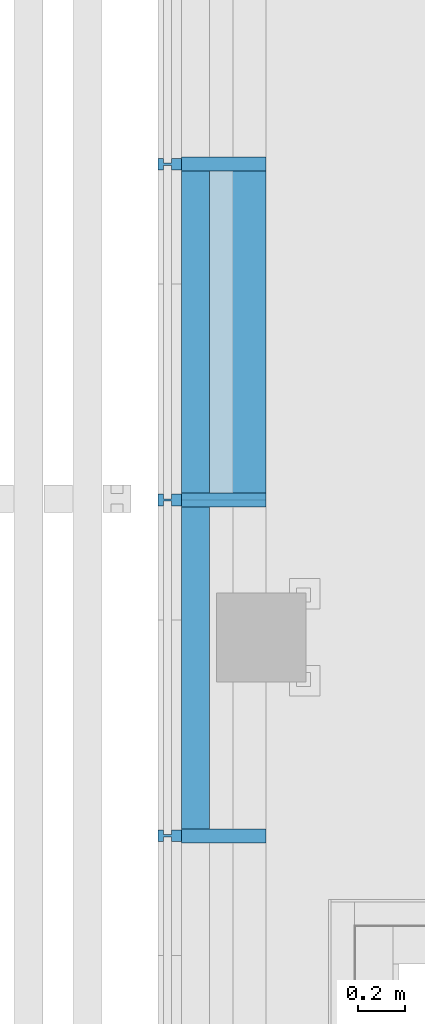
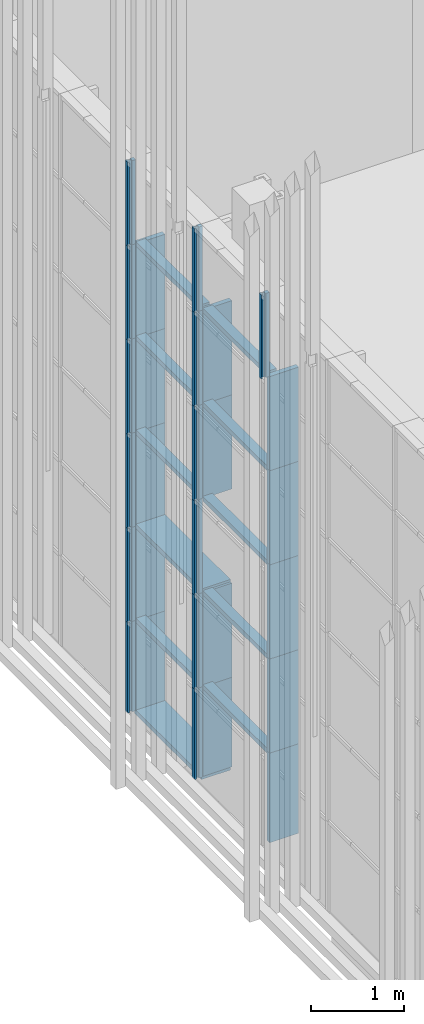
# One storey, part 6 of 260: 38 members, 2 elements without a shape of their own.
"""IFC2X3 building model written with IfcOpenShell, lengths in millimetres."""

from ifc_helpers import new_model, entity, si_unit, converted_unit, derived_unit, money_unit, direction, frame, origin_with_axes, place, context, subcontext, project, spatial, faceted_brep, source, transform, mapped, material, type_object, element, aggregate, save


model = new_model("IFC2X3")

# Units and contexts
model_context = context("Model", 3, precision=0.01, world=origin_with_axes(), true_north=direction((0.0, 1.0)))
body_context = subcontext(model_context, "Body", "Model", "MODEL_VIEW")
ifc_project = project(units=[si_unit("LENGTHUNIT", "METRE", prefix="MILLI"), si_unit("AREAUNIT", "SQUARE_METRE"), si_unit("VOLUMEUNIT", "CUBIC_METRE"), converted_unit("PLANEANGLEUNIT", "DEGREE", entity("IfcPlaneAngleMeasure", 0.0174532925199), si_unit("PLANEANGLEUNIT", "RADIAN"), dimensions=[0, 0, 0, 0, 0, 0, 0]), money_unit("EUR"), converted_unit("TIMEUNIT", "Year", entity("IfcTimeMeasure", 31556926.0), si_unit("TIMEUNIT", "SECOND"), dimensions=[0, 0, 1, 0, 0, 0, 0]), si_unit("MASSUNIT", "GRAM", prefix="KILO"), si_unit("THERMODYNAMICTEMPERATUREUNIT", "DEGREE_CELSIUS"), si_unit("LUMINOUSINTENSITYUNIT", "LUMEN"), si_unit("ENERGYUNIT", "JOULE", prefix="MEGA"), derived_unit("THERMALCONDUCTANCEUNIT", [(si_unit("POWERUNIT", "WATT"), 1), (si_unit("LENGTHUNIT", "METRE"), -1), (si_unit("THERMODYNAMICTEMPERATUREUNIT", "KELVIN"), -1)]), derived_unit("SPECIFICHEATCAPACITYUNIT", [(si_unit("ENERGYUNIT", "JOULE"), 1), (si_unit("MASSUNIT", "GRAM", prefix="KILO"), -1), (si_unit("THERMODYNAMICTEMPERATUREUNIT", "KELVIN"), -1)]), derived_unit("MASSDENSITYUNIT", [(si_unit("MASSUNIT", "GRAM", prefix="KILO"), 1), (si_unit("VOLUMEUNIT", "CUBIC_METRE"), -1)])], contexts=[model_context])

# Site, building, storey
site_placement = place(None, origin_with_axes())
site = spatial("IfcSite", under=ifc_project, at=site_placement, Name="Kolde pst 67a", CompositionType="ELEMENT")
building_placement = place(site_placement, origin_with_axes())
building = spatial("IfcBuilding", under=site, at=building_placement, Name="Riigigümnaasium", CompositionType="ELEMENT")
storey_placement = place(building_placement, origin_with_axes())
storey = spatial("IfcBuildingStorey", under=building, at=storey_placement, Name="1. korrus", CompositionType="ELEMENT", Elevation=0.0)

# Curtain wall, members
curtain_wall_type = type_object("IfcCurtainWallType", Name="Curtain Wall Type", PredefinedType="NOTDEFINED")
curtain_wall_1_placement = place(storey_placement, frame((47829.9854655, 8727.77020058, -0.000749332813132), z_axis=(0.0, 0.0, 1.0), x_axis=(1.0, 0.0, 0.0)))
curtain_wall_1 = element("IfcCurtainWall", 1, at=curtain_wall_1_placement, inside=storey, type_object=curtain_wall_type, Name="KLAASFASSAAD")
ifc_material_1 = material(Name="_METALL - alumiinium")
member_type_1 = type_object("IfcMemberType", Name="Mullion Frame 50 x 100", PredefinedType="MEMBER")
shared_shape_1 = source(origin_with_axes(), body_context, "Body", "Brep", [
    faceted_brep([(5.0, -16.5, 1230.00046362), (5.0, 16.5, 1230.00046362), (25.0, 16.5, 1230.00046362), (25.0, 40.0, 1230.00046362), (-25.0, 40.0, 1230.00046362), (-25.0, 16.5, 1230.00046362), (-5.0, 16.5, 1230.00046362), (-5.0, -16.5, 1230.00046362), (-25.0, -16.5, 1230.00046362), (-25.0, -60.0, 1230.00046362), (25.0, -60.0, 1230.00046362), (25.0, -16.5, 1230.00046362), (5.0, -16.5, 50.0), (5.0, 16.5, 50.0), (25.0, 16.5, 50.0), (25.0, 40.0, 50.0), (-25.0, 40.0, 50.0), (-25.0, 16.5, 50.0), (-5.0, 16.5, 50.0), (-5.0, -16.5, 50.0), (-25.0, -16.5, 50.0), (-25.0, -60.0, 50.0), (25.0, -60.0, 50.0), (25.0, -16.5, 50.0)], [[[0, 1, 2, 3, 4, 5, 6, 7, 8, 9, 10, 11]], [[0, 12, 13, 1]], [[1, 13, 14, 2]], [[14, 15, 3, 2]], [[4, 3, 15, 16]], [[17, 5, 4, 16]], [[5, 17, 18, 6]], [[7, 6, 18, 19]], [[8, 7, 19, 20]], [[8, 20, 21, 9]], [[10, 9, 21, 22]], [[11, 10, 22, 23]], [[11, 23, 12, 0]], [[13, 12, 23, 22, 21, 20, 19, 18, 17, 16, 15, 14]]]),
])
member_1_placement = place(curtain_wall_1_placement, frame((-23999.9308899, 22067.2742227, 2.49889189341e-05), z_axis=(0.0, -1.45020531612e-09, 1.0), x_axis=(-7.64768489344e-06, -0.999999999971, -1.45020531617e-09)))
member_1 = element("IfcMember", 2, at=member_1_placement, type_object=member_type_1, material=ifc_material_1, Name="RF RAAM VERT-648", ObjectType="MEMBER", context=body_context, shape_type="MappedRepresentation", body=[
    mapped(shared_shape_1, transform((0.0, 0.0, 0.0), x_axis=(-1.0, 0.0, -1.45020531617e-09), y_axis=(0.0, -1.0, 0.0), z_axis=(-1.45020531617e-09, 0.0, 1.0))),
])
member_2_placement = place(curtain_wall_1_placement, frame((-23999.9418261, 20637.2742038, 2.49889189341e-05), z_axis=(0.0, 1.39790449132e-08, 1.0), x_axis=(-7.64768489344e-06, -0.999999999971, 1.39790449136e-08)))
member_2 = element("IfcMember", 3, at=member_2_placement, type_object=member_type_1, material=ifc_material_1, Name="RF RAAM VERT-653", ObjectType="MEMBER", context=body_context, shape_type="MappedRepresentation", body=[
    mapped(shared_shape_1, transform((0.0, 0.0, 0.0), x_axis=(-1.0, 0.0, 1.39790449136e-08), y_axis=(0.0, -1.0, 0.0), z_axis=(1.39790449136e-08, 0.0, 1.0))),
])
shared_shape_2 = source(origin_with_axes(), body_context, "Body", "Brep", [
    faceted_brep([(5.0, -16.5, 1230.0), (5.0, 16.5, 1230.0), (25.0, 16.5, 1230.0), (25.0, 40.0, 1230.0), (-25.0, 40.0, 1230.0), (-25.0, 16.5, 1230.0), (-5.0, 16.5, 1230.0), (-5.0, -16.5, 1230.0), (-25.0, -16.5, 1230.0), (-25.0, -60.0, 1230.0), (25.0, -60.0, 1230.0), (25.0, -16.5, 1230.0), (5.0, -16.5, 0.0), (5.0, 16.5, 0.0), (25.0, 16.5, 0.0), (25.0, 40.0, 0.0), (-25.0, 40.0, 0.0), (-25.0, 16.5, 0.0), (-5.0, 16.5, 0.0), (-5.0, -16.5, 0.0), (-25.0, -16.5, 0.0), (-25.0, -60.0, 0.0), (25.0, -60.0, 0.0), (25.0, -16.5, 0.0)], [[[0, 1, 2, 3, 4, 5, 6, 7, 8, 9, 10, 11]], [[0, 12, 13, 1]], [[1, 13, 14, 2]], [[14, 15, 3, 2]], [[3, 15, 16, 4]], [[17, 5, 4, 16]], [[5, 17, 18, 6]], [[7, 6, 18, 19]], [[8, 7, 19, 20]], [[8, 20, 21, 9]], [[9, 21, 22, 10]], [[11, 10, 22, 23]], [[11, 23, 12, 0]], [[13, 12, 23, 22, 21, 20, 19, 18, 17, 16, 15, 14]]]),
])
member_3_placement = place(curtain_wall_1_placement, frame((-23999.9308899, 22067.2742209, 4920.00074933), z_axis=(0.0, 1.45020617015e-09, 1.0), x_axis=(-7.64768489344e-06, -0.999999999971, 1.45020617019e-09)))
member_3 = element("IfcMember", 4, at=member_3_placement, type_object=member_type_1, material=ifc_material_1, Name="RF RAAM VERT-644", ObjectType="MEMBER", context=body_context, shape_type="MappedRepresentation", body=[
    mapped(shared_shape_2, transform((0.0, 0.0, 0.0), x_axis=(-1.0, 0.0, 1.45020617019e-09), y_axis=(0.0, -1.0, 0.0), z_axis=(1.45020617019e-09, 0.0, 1.0))),
])
member_4_placement = place(curtain_wall_1_placement, frame((-23999.9308899, 22067.2742209, 3690.00074933), z_axis=(0.0, 0.0, 1.0), x_axis=(-7.64768489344e-06, -0.999999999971, 0.0)))
member_4 = element("IfcMember", 5, at=member_4_placement, type_object=member_type_1, material=ifc_material_1, Name="RF RAAM VERT-645", ObjectType="MEMBER", context=body_context, shape_type="MappedRepresentation", body=[
    mapped(shared_shape_2, transform((0.0, 0.0, 0.0), x_axis=(-1.0, 0.0, 0.0), y_axis=(0.0, -1.0, 0.0), z_axis=(0.0, 0.0, 1.0))),
])
member_5_placement = place(curtain_wall_1_placement, frame((-23999.9308899, 22067.2742209, 2460.00074933), z_axis=(0.0, 0.0, 1.0), x_axis=(-7.64768489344e-06, -0.999999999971, 0.0)))
member_5 = element("IfcMember", 6, at=member_5_placement, type_object=member_type_1, material=ifc_material_1, Name="RF RAAM VERT-646", ObjectType="MEMBER", context=body_context, shape_type="MappedRepresentation", body=[
    mapped(shared_shape_2, transform((0.0, 0.0, 0.0), x_axis=(-1.0, 0.0, 0.0), y_axis=(0.0, -1.0, 0.0), z_axis=(0.0, 0.0, 1.0))),
])
member_6_placement = place(curtain_wall_1_placement, frame((-23999.9308899, 22067.2742209, 1230.00074933), z_axis=(0.0, 0.0, 1.0), x_axis=(-7.64768489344e-06, -0.999999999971, 0.0)))
member_6 = element("IfcMember", 7, at=member_6_placement, type_object=member_type_1, material=ifc_material_1, Name="RF RAAM VERT-647", ObjectType="MEMBER", context=body_context, shape_type="MappedRepresentation", body=[
    mapped(shared_shape_2, transform((0.0, 0.0, 0.0), x_axis=(-1.0, 0.0, 0.0), y_axis=(0.0, -1.0, 0.0), z_axis=(0.0, 0.0, 1.0))),
])
member_7_placement = place(curtain_wall_1_placement, frame((-23999.9418261, 20637.274221, 4920.00074933), z_axis=(0.0, -1.39790531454e-08, 1.0), x_axis=(-7.64768489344e-06, -0.999999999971, -1.39790531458e-08)))
member_7 = element("IfcMember", 8, at=member_7_placement, type_object=member_type_1, material=ifc_material_1, Name="RF RAAM VERT-649", ObjectType="MEMBER", context=body_context, shape_type="MappedRepresentation", body=[
    mapped(shared_shape_2, transform((0.0, 0.0, 0.0), x_axis=(-1.0, 0.0, -1.39790531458e-08), y_axis=(0.0, -1.0, 0.0), z_axis=(-1.39790531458e-08, 0.0, 1.0))),
])
member_8_placement = place(curtain_wall_1_placement, frame((-23999.9418261, 20637.274221, 3690.00074933), z_axis=(0.0, 0.0, 1.0), x_axis=(-7.64768489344e-06, -0.999999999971, 0.0)))
member_8 = element("IfcMember", 9, at=member_8_placement, type_object=member_type_1, material=ifc_material_1, Name="RF RAAM VERT-650", ObjectType="MEMBER", context=body_context, shape_type="MappedRepresentation", body=[
    mapped(shared_shape_2, transform((0.0, 0.0, 0.0), x_axis=(-1.0, 0.0, 0.0), y_axis=(0.0, -1.0, 0.0), z_axis=(0.0, 0.0, 1.0))),
])
member_9_placement = place(curtain_wall_1_placement, frame((-23999.9418261, 20637.274221, 2460.00074933), z_axis=(0.0, 0.0, 1.0), x_axis=(-7.64768489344e-06, -0.999999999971, 0.0)))
member_9 = element("IfcMember", 10, at=member_9_placement, type_object=member_type_1, material=ifc_material_1, Name="RF RAAM VERT-651", ObjectType="MEMBER", context=body_context, shape_type="MappedRepresentation", body=[
    mapped(shared_shape_2, transform((0.0, 0.0, 0.0), x_axis=(-1.0, 0.0, 0.0), y_axis=(0.0, -1.0, 0.0), z_axis=(0.0, 0.0, 1.0))),
])
member_10_placement = place(curtain_wall_1_placement, frame((-23999.9418261, 20637.274221, 1230.00074933), z_axis=(0.0, 0.0, 1.0), x_axis=(-7.64768489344e-06, -0.999999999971, 0.0)))
member_10 = element("IfcMember", 11, at=member_10_placement, type_object=member_type_1, material=ifc_material_1, Name="RF RAAM VERT-652", ObjectType="MEMBER", context=body_context, shape_type="MappedRepresentation", body=[
    mapped(shared_shape_2, transform((0.0, 0.0, 0.0), x_axis=(-1.0, 0.0, 0.0), y_axis=(0.0, -1.0, 0.0), z_axis=(0.0, 0.0, 1.0))),
])
shared_shape_3 = source(origin_with_axes(), body_context, "Body", "Brep", [
    faceted_brep([(5.0, -16.5, 1099.99900713), (5.0, 16.5, 1099.99900713), (25.0, 16.5, 1099.99900713), (25.0, 40.0, 1099.99900713), (-25.0, 40.0, 1099.99900713), (-25.0, 16.5, 1099.99900713), (-5.0, 16.5, 1099.99900713), (-5.0, -16.5, 1099.99900713), (-25.0, -16.5, 1099.99900713), (-25.0, -60.0, 1099.99900713), (25.0, -60.0, 1099.99900713), (25.0, -16.5, 1099.99900713), (5.0, -16.5, -4.55870452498e-07), (5.0, 16.5, -4.55870452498e-07), (25.0, 16.5, -4.55870452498e-07), (25.0, 40.0, -4.55870452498e-07), (-25.0, 40.0, -4.55870452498e-07), (-25.0, 16.5, -4.55870452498e-07), (-5.0, 16.5, -4.55870452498e-07), (-5.0, -16.5, -4.55870452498e-07), (-25.0, -16.5, -4.55870452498e-07), (-25.0, -60.0, -4.55870452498e-07), (25.0, -60.0, -4.55870452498e-07), (25.0, -16.5, -4.55870452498e-07)], [[[0, 1, 2, 3, 4, 5, 6, 7, 8, 9, 10, 11]], [[0, 12, 13, 1]], [[1, 13, 14, 2]], [[14, 15, 3, 2]], [[3, 15, 16, 4]], [[17, 5, 4, 16]], [[5, 17, 18, 6]], [[7, 6, 18, 19]], [[8, 7, 19, 20]], [[8, 20, 21, 9]], [[9, 21, 22, 10]], [[11, 10, 22, 23]], [[11, 23, 12, 0]], [[13, 12, 23, 22, 21, 20, 19, 18, 17, 16, 15, 14]]]),
])
member_11_placement = place(curtain_wall_1_placement, frame((-23999.9527623, 19207.2742061, 6150.00074933), z_axis=(0.0, 0.0, 1.0), x_axis=(-7.64768489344e-06, -0.999999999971, 0.0)))
member_11 = element("IfcMember", 12, at=member_11_placement, type_object=member_type_1, material=ifc_material_1, Name="RF RAAM VERT-111", ObjectType="MEMBER", context=body_context, shape_type="MappedRepresentation", body=[
    mapped(shared_shape_3, transform((0.0, 0.0, 0.0), x_axis=(-1.0, 0.0, 0.0), y_axis=(0.0, -1.0, 0.0), z_axis=(0.0, 0.0, 1.0))),
])
member_12_placement = place(curtain_wall_1_placement, frame((-23999.9418261, 20637.2742038, 6150.00074933), z_axis=(0.0, 0.0, 1.0), x_axis=(-7.64768489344e-06, -0.999999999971, 0.0)))
member_12 = element("IfcMember", 13, at=member_12_placement, type_object=member_type_1, material=ifc_material_1, Name="RF RAAM VERT-112", ObjectType="MEMBER", context=body_context, shape_type="MappedRepresentation", body=[
    mapped(shared_shape_3, transform((0.0, 0.0, 0.0), x_axis=(-1.0, 0.0, 0.0), y_axis=(0.0, -1.0, 0.0), z_axis=(0.0, 0.0, 1.0))),
])
member_13_placement = place(curtain_wall_1_placement, frame((-23999.9308899, 22067.2742227, 6150.00074933), z_axis=(0.0, 0.0, 1.0), x_axis=(-7.64768489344e-06, -0.999999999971, 0.0)))
member_13 = element("IfcMember", 14, at=member_13_placement, type_object=member_type_1, material=ifc_material_1, Name="RF RAAM VERT-113", ObjectType="MEMBER", context=body_context, shape_type="MappedRepresentation", body=[
    mapped(shared_shape_3, transform((0.0, 0.0, 0.0), x_axis=(-1.0, 0.0, 0.0), y_axis=(0.0, -1.0, 0.0), z_axis=(0.0, 0.0, 1.0))),
])
aggregate(curtain_wall_1, [member_3, member_4, member_5, member_6, member_1, member_7, member_8, member_9, member_10, member_2, member_11, member_12, member_13])

curtain_wall_2_placement = place(storey_placement, frame((23890.0026791, 27220.1832522, -0.000253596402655), z_axis=(0.0, 0.0, 1.0), x_axis=(1.0, 0.0, 0.0)))
curtain_wall_2 = element("IfcCurtainWall", 15, at=curtain_wall_2_placement, inside=storey, type_object=curtain_wall_type, Name="Klaasfassaadi puitkarkass")
ifc_material_2 = material(Name="_KANDETARIND - liimpuit vastavalt EK osale")
member_type_2 = type_object("IfcMemberType", Name="Transom Frame 60 x 120", PredefinedType="MEMBER")
shared_shape_4 = source(origin_with_axes(), body_context, "Body", "Brep", [
    faceted_brep([(-30.0, 0.0, 30.0), (-30.0, -120.0, 30.0), (-30.0, -120.0, 1400.0), (-30.0, 0.0, 1400.0), (30.0, 0.0, 30.0), (30.0, -120.0, 30.0), (30.0, -120.0, 1400.0), (30.0, 0.0, 1400.0)], [[[0, 1, 2, 3]], [[1, 0, 4, 5]], [[1, 5, 6, 2]], [[2, 6, 7, 3]], [[4, 0, 3, 7]], [[5, 4, 7, 6]]]),
])
member_14_placement = place(curtain_wall_2_placement, frame((3.66502916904e-06, 715.0, 1230.0002536), z_axis=(5.12591740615e-09, 1.0, 0.0), x_axis=(0.0, 0.0, 1.0)))
member_14 = element("IfcMember", 16, at=member_14_placement, type_object=member_type_2, material=ifc_material_2, Name="RF RAAM HOR-648", ObjectType="MEMBER", context=body_context, shape_type="MappedRepresentation", body=[
    mapped(shared_shape_4, transform((0.0, 0.0, 0.0), x_axis=(-1.0, 0.0, 0.0), y_axis=(0.0, -1.0, -5.12591728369e-09), z_axis=(0.0, -5.12591728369e-09, 1.0))),
])
member_15_placement = place(curtain_wall_2_placement, frame((1.09950910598e-05, 2145.0, 1230.0002536), z_axis=(5.12591492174e-09, 1.0, 0.0), x_axis=(0.0, 0.0, 1.0)))
member_15 = element("IfcMember", 17, at=member_15_placement, type_object=member_type_2, material=ifc_material_2, Name="RF RAAM HOR-648", ObjectType="MEMBER", context=body_context, shape_type="MappedRepresentation", body=[
    mapped(shared_shape_4, transform((0.0, 0.0, 0.0), x_axis=(-1.0, 0.0, 0.0), y_axis=(0.0, -1.0, -5.12591479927e-09), z_axis=(0.0, -5.12591479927e-09, 1.0))),
])
member_16_placement = place(curtain_wall_2_placement, frame((3.66502916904e-06, 715.0, 2460.0002536), z_axis=(5.12591740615e-09, 1.0, 0.0), x_axis=(0.0, 0.0, 1.0)))
member_16 = element("IfcMember", 18, at=member_16_placement, type_object=member_type_2, material=ifc_material_2, Name="RF RAAM HOR-648", ObjectType="MEMBER", context=body_context, shape_type="MappedRepresentation", body=[
    mapped(shared_shape_4, transform((0.0, 0.0, 0.0), x_axis=(-1.0, 0.0, 0.0), y_axis=(0.0, -1.0, -5.12591728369e-09), z_axis=(0.0, -5.12591728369e-09, 1.0))),
])
member_17_placement = place(curtain_wall_2_placement, frame((3.66502916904e-06, 715.0, 3690.0002536), z_axis=(5.12591740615e-09, 1.0, 0.0), x_axis=(0.0, 0.0, 1.0)))
member_17 = element("IfcMember", 19, at=member_17_placement, type_object=member_type_2, material=ifc_material_2, Name="RF RAAM HOR-648", ObjectType="MEMBER", context=body_context, shape_type="MappedRepresentation", body=[
    mapped(shared_shape_4, transform((0.0, 0.0, 0.0), x_axis=(-1.0, 0.0, 0.0), y_axis=(0.0, -1.0, -5.12591728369e-09), z_axis=(0.0, -5.12591728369e-09, 1.0))),
])
member_18_placement = place(curtain_wall_2_placement, frame((1.09950910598e-05, 2145.0, 3690.0002536), z_axis=(5.12591492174e-09, 1.0, 0.0), x_axis=(0.0, 0.0, 1.0)))
member_18 = element("IfcMember", 20, at=member_18_placement, type_object=member_type_2, material=ifc_material_2, Name="RF RAAM HOR-648", ObjectType="MEMBER", context=body_context, shape_type="MappedRepresentation", body=[
    mapped(shared_shape_4, transform((0.0, 0.0, 0.0), x_axis=(-1.0, 0.0, 0.0), y_axis=(0.0, -1.0, -5.12591479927e-09), z_axis=(0.0, -5.12591479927e-09, 1.0))),
])
member_19_placement = place(curtain_wall_2_placement, frame((3.66502916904e-06, 715.0, 4920.0002536), z_axis=(5.12591740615e-09, 1.0, 0.0), x_axis=(0.0, 0.0, 1.0)))
member_19 = element("IfcMember", 21, at=member_19_placement, type_object=member_type_2, material=ifc_material_2, Name="RF RAAM HOR-648", ObjectType="MEMBER", context=body_context, shape_type="MappedRepresentation", body=[
    mapped(shared_shape_4, transform((0.0, 0.0, 0.0), x_axis=(-1.0, 0.0, 0.0), y_axis=(0.0, -1.0, -5.12591728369e-09), z_axis=(0.0, -5.12591728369e-09, 1.0))),
])
member_20_placement = place(curtain_wall_2_placement, frame((1.09950910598e-05, 2145.0, 4920.0002536), z_axis=(5.12591492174e-09, 1.0, 0.0), x_axis=(0.0, 0.0, 1.0)))
member_20 = element("IfcMember", 22, at=member_20_placement, type_object=member_type_2, material=ifc_material_2, Name="RF RAAM HOR-648", ObjectType="MEMBER", context=body_context, shape_type="MappedRepresentation", body=[
    mapped(shared_shape_4, transform((0.0, 0.0, 0.0), x_axis=(-1.0, 0.0, 0.0), y_axis=(0.0, -1.0, -5.12591479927e-09), z_axis=(0.0, -5.12591479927e-09, 1.0))),
])
member_21_placement = place(curtain_wall_2_placement, frame((3.66502916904e-06, 715.0, 6150.0002536), z_axis=(5.12591740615e-09, 1.0, 0.0), x_axis=(0.0, 0.0, 1.0)))
member_21 = element("IfcMember", 23, at=member_21_placement, type_object=member_type_2, material=ifc_material_2, Name="RF RAAM HOR-648", ObjectType="MEMBER", context=body_context, shape_type="MappedRepresentation", body=[
    mapped(shared_shape_4, transform((0.0, 0.0, 0.0), x_axis=(-1.0, 0.0, 0.0), y_axis=(0.0, -1.0, -5.12591728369e-09), z_axis=(0.0, -5.12591728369e-09, 1.0))),
])
member_22_placement = place(curtain_wall_2_placement, frame((1.09950910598e-05, 2145.0, 6150.0002536), z_axis=(5.12591492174e-09, 1.0, 0.0), x_axis=(0.0, 0.0, 1.0)))
member_22 = element("IfcMember", 24, at=member_22_placement, type_object=member_type_2, material=ifc_material_2, Name="RF RAAM HOR-648", ObjectType="MEMBER", context=body_context, shape_type="MappedRepresentation", body=[
    mapped(shared_shape_4, transform((0.0, 0.0, 0.0), x_axis=(-1.0, 0.0, 0.0), y_axis=(0.0, -1.0, -5.12591479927e-09), z_axis=(0.0, -5.12591479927e-09, 1.0))),
])
member_type_3 = type_object("IfcMemberType", Name="Mullion Frame 60 x 360", PredefinedType="MEMBER")
shared_shape_5 = source(origin_with_axes(), body_context, "Body", "Brep", [
    faceted_brep([(-30.0, 0.0, 60.0), (-30.0, -360.0, 60.0), (-30.0, -360.0, 1230.0002536), (-30.0, 0.0, 1230.0002536), (30.0, 0.0, 60.0), (30.0, -360.0, 60.0), (30.0, -360.0, 1230.0002536), (30.0, 0.0, 1230.0002536)], [[[0, 1, 2, 3]], [[1, 0, 4, 5]], [[1, 5, 6, 2]], [[2, 6, 7, 3]], [[4, 0, 3, 7]], [[5, 4, 7, 6]]]),
])
member_23_placement = place(curtain_wall_2_placement, frame((3.66502916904e-06, 715.0, 0.0), z_axis=(0.0, 0.0, 1.0), x_axis=(-5.12591616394e-09, -1.0, 0.0)))
member_23 = element("IfcMember", 25, at=member_23_placement, type_object=member_type_3, material=ifc_material_2, Name="RF RAAM VERT-837", ObjectType="MEMBER", context=body_context, shape_type="MappedRepresentation", body=[
    mapped(shared_shape_5, transform((0.0, 0.0, 0.0), x_axis=(-1.0, 0.0, 0.0), y_axis=(0.0, -1.0, 0.0), z_axis=(0.0, 0.0, 1.0))),
])
member_24_placement = place(curtain_wall_2_placement, frame((1.09950910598e-05, 2145.0, 0.0), z_axis=(0.0, 0.0, 1.0), x_axis=(-5.12591616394e-09, -1.0, 0.0)))
member_24 = element("IfcMember", 26, at=member_24_placement, type_object=member_type_3, material=ifc_material_2, Name="RF RAAM VERT-837", ObjectType="MEMBER", context=body_context, shape_type="MappedRepresentation", body=[
    mapped(shared_shape_5, transform((0.0, 0.0, 0.0), x_axis=(-1.0, 0.0, 0.0), y_axis=(0.0, -1.0, 0.0), z_axis=(0.0, 0.0, 1.0))),
])
member_25_placement = place(curtain_wall_2_placement, frame((1.83251493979e-05, 3575.0, 0.0), z_axis=(0.0, 0.0, 1.0), x_axis=(-5.12591492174e-09, -1.0, 0.0)))
member_25 = element("IfcMember", 27, at=member_25_placement, type_object=member_type_3, material=ifc_material_2, Name="RF RAAM VERT-837", ObjectType="MEMBER", context=body_context, shape_type="MappedRepresentation", body=[
    mapped(shared_shape_5, transform((0.0, 0.0, 0.0), x_axis=(-1.0, 0.0, 0.0), y_axis=(0.0, -1.0, 0.0), z_axis=(0.0, 0.0, 1.0))),
])
shared_shape_6 = source(origin_with_axes(), body_context, "Body", "Brep", [
    faceted_brep([(-30.0, -360.0, 0.0), (-30.0, -360.0, 1230.0), (-30.0, 0.0, 1230.0), (-30.0, 0.0, 0.0), (30.0, -360.0, 0.0), (30.0, -360.0, 1230.0), (30.0, 0.0, 1230.0), (30.0, 0.0, 0.0)], [[[0, 1, 2, 3]], [[4, 5, 1, 0]], [[1, 5, 6, 2]], [[3, 2, 6, 7]], [[0, 3, 7, 4]], [[7, 6, 5, 4]]]),
])
member_26_placement = place(curtain_wall_2_placement, frame((3.66502916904e-06, 715.0, 1230.0002536), z_axis=(0.0, 0.0, 1.0), x_axis=(-5.12591616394e-09, -1.0, 0.0)))
member_26 = element("IfcMember", 28, at=member_26_placement, type_object=member_type_3, material=ifc_material_2, Name="RF RAAM VERT-837", ObjectType="MEMBER", context=body_context, shape_type="MappedRepresentation", body=[
    mapped(shared_shape_6, transform((0.0, 0.0, 0.0), x_axis=(-1.0, 0.0, 0.0), y_axis=(0.0, -1.0, 0.0), z_axis=(0.0, 0.0, 1.0))),
])
member_27_placement = place(curtain_wall_2_placement, frame((3.66502916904e-06, 715.0, 2460.0002536), z_axis=(0.0, 0.0, 1.0), x_axis=(-5.12591616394e-09, -1.0, 0.0)))
member_27 = element("IfcMember", 29, at=member_27_placement, type_object=member_type_3, material=ifc_material_2, Name="RF RAAM VERT-837", ObjectType="MEMBER", context=body_context, shape_type="MappedRepresentation", body=[
    mapped(shared_shape_6, transform((0.0, 0.0, 0.0), x_axis=(-1.0, 0.0, 0.0), y_axis=(0.0, -1.0, 0.0), z_axis=(0.0, 0.0, 1.0))),
])
member_28_placement = place(curtain_wall_2_placement, frame((3.66502916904e-06, 715.0, 3690.0002536), z_axis=(0.0, 0.0, 1.0), x_axis=(-5.12591616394e-09, -1.0, 0.0)))
member_28 = element("IfcMember", 30, at=member_28_placement, type_object=member_type_3, material=ifc_material_2, Name="RF RAAM VERT-837", ObjectType="MEMBER", context=body_context, shape_type="MappedRepresentation", body=[
    mapped(shared_shape_6, transform((0.0, 0.0, 0.0), x_axis=(-1.0, 0.0, 0.0), y_axis=(0.0, -1.0, 0.0), z_axis=(0.0, 0.0, 1.0))),
])
member_29_placement = place(curtain_wall_2_placement, frame((3.66502916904e-06, 715.0, 4920.0002536), z_axis=(0.0, 0.0, 1.0), x_axis=(-5.12591616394e-09, -1.0, 0.0)))
member_29 = element("IfcMember", 31, at=member_29_placement, type_object=member_type_3, material=ifc_material_2, Name="RF RAAM VERT-837", ObjectType="MEMBER", context=body_context, shape_type="MappedRepresentation", body=[
    mapped(shared_shape_6, transform((0.0, 0.0, 0.0), x_axis=(-1.0, 0.0, 0.0), y_axis=(0.0, -1.0, 0.0), z_axis=(0.0, 0.0, 1.0))),
])
member_30_placement = place(curtain_wall_2_placement, frame((1.09950910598e-05, 2145.0, 3690.0002536), z_axis=(0.0, 0.0, 1.0), x_axis=(-5.12591616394e-09, -1.0, 0.0)))
member_30 = element("IfcMember", 32, at=member_30_placement, type_object=member_type_3, material=ifc_material_2, Name="RF RAAM VERT-837", ObjectType="MEMBER", context=body_context, shape_type="MappedRepresentation", body=[
    mapped(shared_shape_6, transform((0.0, 0.0, 0.0), x_axis=(-1.0, 0.0, 0.0), y_axis=(0.0, -1.0, 0.0), z_axis=(0.0, 0.0, 1.0))),
])
member_31_placement = place(curtain_wall_2_placement, frame((1.09950910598e-05, 2145.0, 4920.0002536), z_axis=(0.0, 0.0, 1.0), x_axis=(-5.12591616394e-09, -1.0, 0.0)))
member_31 = element("IfcMember", 33, at=member_31_placement, type_object=member_type_3, material=ifc_material_2, Name="RF RAAM VERT-837", ObjectType="MEMBER", context=body_context, shape_type="MappedRepresentation", body=[
    mapped(shared_shape_6, transform((0.0, 0.0, 0.0), x_axis=(-1.0, 0.0, 0.0), y_axis=(0.0, -1.0, 0.0), z_axis=(0.0, 0.0, 1.0))),
])
member_32_placement = place(curtain_wall_2_placement, frame((1.83251493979e-05, 3575.0, 3690.0002536), z_axis=(0.0, 0.0, 1.0), x_axis=(-5.12591492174e-09, -1.0, 0.0)))
member_32 = element("IfcMember", 34, at=member_32_placement, type_object=member_type_3, material=ifc_material_2, Name="RF RAAM VERT-837", ObjectType="MEMBER", context=body_context, shape_type="MappedRepresentation", body=[
    mapped(shared_shape_6, transform((0.0, 0.0, 0.0), x_axis=(-1.0, 0.0, 0.0), y_axis=(0.0, -1.0, 0.0), z_axis=(0.0, 0.0, 1.0))),
])
member_33_placement = place(curtain_wall_2_placement, frame((1.83251493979e-05, 3575.0, 4920.0002536), z_axis=(0.0, 0.0, 1.0), x_axis=(-5.12591492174e-09, -1.0, 0.0)))
member_33 = element("IfcMember", 35, at=member_33_placement, type_object=member_type_3, material=ifc_material_2, Name="RF RAAM VERT-837", ObjectType="MEMBER", context=body_context, shape_type="MappedRepresentation", body=[
    mapped(shared_shape_6, transform((0.0, 0.0, 0.0), x_axis=(-1.0, 0.0, 0.0), y_axis=(0.0, -1.0, 0.0), z_axis=(0.0, 0.0, 1.0))),
])
shared_shape_7 = source(origin_with_axes(), body_context, "Body", "Brep", [
    faceted_brep([(30.0, 0.0, 1200.0), (30.0, 0.0, 0.0), (-30.0, 0.0, 0.0), (-30.0, 0.0, 1230.0), (0.0, 0.0, 1230.0), (0.0, 0.0, 1200.0), (30.0, -360.0, 1200.0), (30.0, -360.0, 0.0), (-30.0, -360.0, 0.0), (-30.0, -360.0, 1230.0), (0.0, -360.0, 1230.0), (0.0, -360.0, 1200.0)], [[[0, 1, 2, 3, 4, 5]], [[6, 7, 1, 0]], [[7, 8, 2, 1]], [[2, 8, 9, 3]], [[4, 3, 9, 10]], [[10, 11, 5, 4]], [[5, 11, 6, 0]], [[11, 10, 9, 8, 7, 6]]]),
])
member_34_placement = place(curtain_wall_2_placement, frame((1.09950910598e-05, 2145.0, 1230.0002536), z_axis=(0.0, 0.0, 1.0), x_axis=(-5.12591616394e-09, -1.0, 0.0)))
member_34 = element("IfcMember", 36, at=member_34_placement, type_object=member_type_3, material=ifc_material_2, Name="RF RAAM VERT-837", ObjectType="MEMBER", context=body_context, shape_type="MappedRepresentation", body=[
    mapped(shared_shape_7, transform((0.0, 0.0, 0.0), x_axis=(-1.0, 0.0, 0.0), y_axis=(0.0, -1.0, 0.0), z_axis=(0.0, 0.0, 1.0))),
])
shared_shape_8 = source(origin_with_axes(), body_context, "Body", "Brep", [
    faceted_brep([(-30.0, -360.0, 0.0), (-30.0, -360.0, 1200.0), (-30.0, 0.0, 1200.0), (-30.0, 0.0, 0.0), (30.0, -360.0, 0.0), (30.0, -360.0, 1200.0), (30.0, 0.0, 1200.0), (30.0, 0.0, 0.0)], [[[0, 1, 2, 3]], [[4, 5, 1, 0]], [[1, 5, 6, 2]], [[3, 2, 6, 7]], [[0, 3, 7, 4]], [[7, 6, 5, 4]]]),
])
member_35_placement = place(curtain_wall_2_placement, frame((1.83251493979e-05, 3575.0, 1230.0002536), z_axis=(0.0, 0.0, 1.0), x_axis=(-5.12591492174e-09, -1.0, 0.0)))
member_35 = element("IfcMember", 37, at=member_35_placement, type_object=member_type_3, material=ifc_material_2, Name="RF RAAM VERT-837", ObjectType="MEMBER", context=body_context, shape_type="MappedRepresentation", body=[
    mapped(shared_shape_8, transform((0.0, 0.0, 0.0), x_axis=(-1.0, 0.0, 0.0), y_axis=(0.0, -1.0, 0.0), z_axis=(0.0, 0.0, 1.0))),
])
shared_shape_9 = source(origin_with_axes(), body_context, "Body", "Brep", [
    faceted_brep([(-30.0, 0.0, 30.0), (-30.0, -360.0, 30.0), (-30.0, -360.0, 1230.0), (-30.0, 0.0, 1230.0), (30.0, 0.0, 30.0), (30.0, -360.0, 30.0), (30.0, -360.0, 1230.0), (30.0, 0.0, 1230.0)], [[[0, 1, 2, 3]], [[1, 0, 4, 5]], [[1, 5, 6, 2]], [[2, 6, 7, 3]], [[4, 0, 3, 7]], [[5, 4, 7, 6]]]),
])
member_36_placement = place(curtain_wall_2_placement, frame((1.83251493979e-05, 3575.0, 2460.0002536), z_axis=(0.0, 0.0, 1.0), x_axis=(-5.12591492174e-09, -1.0, 0.0)))
member_36 = element("IfcMember", 38, at=member_36_placement, type_object=member_type_3, material=ifc_material_2, Name="RF RAAM VERT-837", ObjectType="MEMBER", context=body_context, shape_type="MappedRepresentation", body=[
    mapped(shared_shape_9, transform((0.0, 0.0, 0.0), x_axis=(-1.0, 0.0, 0.0), y_axis=(0.0, -1.0, 0.0), z_axis=(0.0, 0.0, 1.0))),
])
member_type_4 = type_object("IfcMemberType", Name="Boundary Frame 60 x 360", PredefinedType="MEMBER")
shared_shape_10 = source(origin_with_axes(), body_context, "Body", "Brep", [
    faceted_brep([(-60.0, -360.0, 0.0), (-60.0, -360.0, 1430.0), (-60.0, 0.0, 1430.0), (-60.0, 0.0, 0.0), (0.0, -360.0, 0.0), (0.0, -360.0, 1430.0), (0.0, 0.0, 1430.0), (0.0, 0.0, 0.0)], [[[0, 1, 2, 3]], [[4, 5, 1, 0]], [[1, 5, 6, 2]], [[3, 2, 6, 7]], [[0, 3, 7, 4]], [[7, 6, 5, 4]]]),
])
member_37_placement = place(curtain_wall_2_placement, frame((1.09950910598e-05, 2145.0, 0.0), z_axis=(5.12591492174e-09, 1.0, 0.0), x_axis=(0.0, 0.0, 1.0)))
member_37 = element("IfcMember", 39, at=member_37_placement, type_object=member_type_4, material=ifc_material_2, Name="RF RAAM SERV-713", ObjectType="MEMBER", context=body_context, shape_type="MappedRepresentation", body=[
    mapped(shared_shape_10, transform((0.0, 0.0, 0.0), x_axis=(-1.0, 0.0, 0.0), y_axis=(0.0, -1.0, -5.12591479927e-09), z_axis=(0.0, -5.12591479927e-09, 1.0))),
])
shared_shape_11 = source(origin_with_axes(), body_context, "Body", "Brep", [
    faceted_brep([(-30.0, -360.0, 0.0), (-30.0, -360.0, 1430.0), (-30.0, 0.0, 1430.0), (-30.0, 0.0, 0.0), (30.0, -360.0, 0.0), (30.0, -360.0, 1430.0), (30.0, 0.0, 1430.0), (30.0, 0.0, 0.0)], [[[0, 1, 2, 3]], [[4, 5, 1, 0]], [[1, 5, 6, 2]], [[3, 2, 6, 7]], [[0, 3, 7, 4]], [[7, 6, 5, 4]]]),
])
member_38_placement = place(curtain_wall_2_placement, frame((1.09950910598e-05, 2145.0, 2460.0002536), z_axis=(5.12591492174e-09, 1.0, 0.0), x_axis=(0.0, 0.0, 1.0)))
member_38 = element("IfcMember", 40, at=member_38_placement, type_object=member_type_4, material=ifc_material_2, Name="RF RAAM HOR-648", ObjectType="MEMBER", context=body_context, shape_type="MappedRepresentation", body=[
    mapped(shared_shape_11, transform((0.0, 0.0, 0.0), x_axis=(-1.0, 0.0, 0.0), y_axis=(0.0, -1.0, -5.12591479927e-09), z_axis=(0.0, -5.12591479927e-09, 1.0))),
])
aggregate(curtain_wall_2, [member_23, member_26, member_27, member_28, member_29, member_24, member_34, member_30, member_31, member_25, member_35, member_36, member_32, member_33, member_37, member_14, member_15, member_16, member_38, member_17, member_18, member_19, member_20, member_21, member_22])

save(model, "model.ifc")
